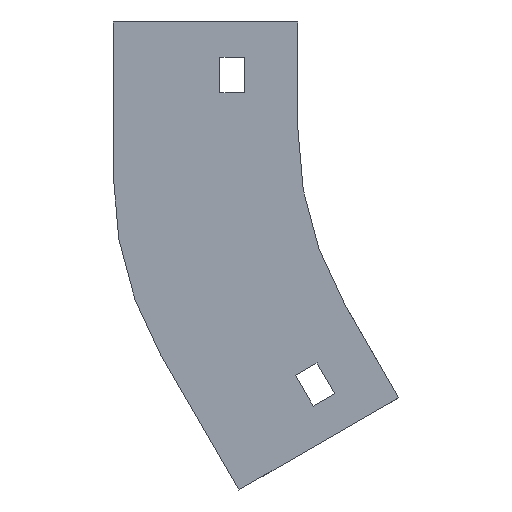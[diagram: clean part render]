
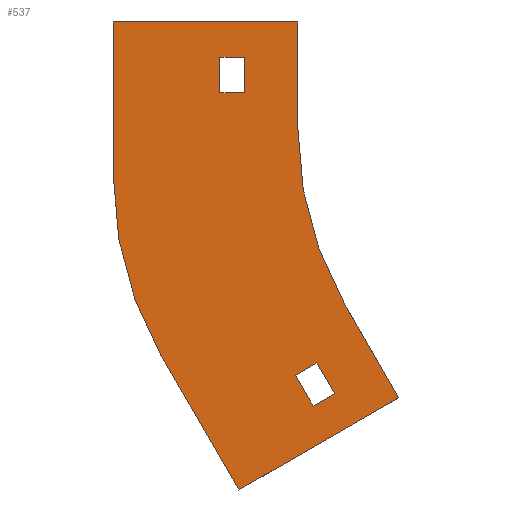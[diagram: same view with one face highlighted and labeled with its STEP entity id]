
A CAD part, left-side view. The second image highlights one B-rep face of the part: STEP entity #537.
In plain terms, the highlighted planar face has unit normal (-1, 0, 0).
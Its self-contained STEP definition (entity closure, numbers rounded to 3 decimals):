
#2 = DIRECTION ( 'NONE',  ( 0., 0., 1. ) ) ;
#16 = EDGE_CURVE ( 'NONE', #969, #68, #469, .T. ) ;
#18 = CARTESIAN_POINT ( 'NONE',  ( -202., 0.655, -99.66 ) ) ;
#35 = VERTEX_POINT ( 'NONE', #703 ) ;
#46 = LINE ( 'NONE', #909, #791 ) ;
#53 = EDGE_CURVE ( 'NONE', #1324, #176, #1214, .T. ) ;
#68 = VERTEX_POINT ( 'NONE', #692 ) ;
#80 = EDGE_CURVE ( 'NONE', #94, #1181, #1142, .T. ) ;
#94 = VERTEX_POINT ( 'NONE', #184 ) ;
#96 = CARTESIAN_POINT ( 'NONE',  ( -202., -5.407, -96.16 ) ) ;
#108 = ORIENTED_EDGE ( 'NONE', *, *, #763, .F. ) ;
#111 = LINE ( 'NONE', #968, #675 ) ;
#117 = FACE_OUTER_BOUND ( 'NONE', #1253, .T. ) ;
#121 = AXIS2_PLACEMENT_3D ( 'NONE', #262, #698, #1313 ) ;
#126 = CARTESIAN_POINT ( 'NONE',  ( -202., -13.397, -80. ) ) ;
#131 = ORIENTED_EDGE ( 'NONE', *, *, #227, .F. ) ;
#132 = EDGE_CURVE ( 'NONE', #1181, #286, #314, .T. ) ;
#138 = DIRECTION ( 'NONE',  ( 0., 0.866, -0.5 ) ) ;
#142 = VECTOR ( 'NONE', #1256, 1000. ) ;
#156 = EDGE_CURVE ( 'NONE', #176, #296, #194, .T. ) ;
#162 = VERTEX_POINT ( 'NONE', #96 ) ;
#164 = AXIS2_PLACEMENT_3D ( 'NONE', #457, #784, #885 ) ;
#176 = VERTEX_POINT ( 'NONE', #616 ) ;
#177 = ORIENTED_EDGE ( 'NONE', *, *, #53, .F. ) ;
#184 = CARTESIAN_POINT ( 'NONE',  ( -202., 15., -10. ) ) ;
#194 = LINE ( 'NONE', #1058, #1235 ) ;
#202 = VECTOR ( 'NONE', #401, 1000. ) ;
#205 = EDGE_LOOP ( 'NONE', ( #880, #1283, #1373, #793 ) ) ;
#227 = EDGE_CURVE ( 'NONE', #162, #969, #233, .T. ) ;
#233 = LINE ( 'NONE', #1305, #279 ) ;
#252 = VERTEX_POINT ( 'NONE', #126 ) ;
#262 = CARTESIAN_POINT ( 'NONE',  ( -202., -100., -30. ) ) ;
#276 = VECTOR ( 'NONE', #1290, 1000. ) ;
#279 = VECTOR ( 'NONE', #1201, 1000. ) ;
#286 = VERTEX_POINT ( 'NONE', #1307 ) ;
#296 = VERTEX_POINT ( 'NONE', #476 ) ;
#305 = EDGE_CURVE ( 'NONE', #35, #1061, #46, .T. ) ;
#314 = LINE ( 'NONE', #744, #202 ) ;
#348 = VECTOR ( 'NONE', #1006, 1000. ) ;
#384 = CARTESIAN_POINT ( 'NONE',  ( -202., 38.603, -93.933 ) ) ;
#399 = LINE ( 'NONE', #717, #348 ) ;
#401 = DIRECTION ( 'NONE',  ( 0., 1., 0. ) ) ;
#403 = LINE ( 'NONE', #832, #142 ) ;
#416 = VECTOR ( 'NONE', #1333, 1000. ) ;
#457 = CARTESIAN_POINT ( 'NONE',  ( -202., -48., -43.933 ) ) ;
#467 = LINE ( 'NONE', #1094, #533 ) ;
#469 = LINE ( 'NONE', #811, #416 ) ;
#470 = CARTESIAN_POINT ( 'NONE',  ( -202., -10.407, -104.821 ) ) ;
#472 = CARTESIAN_POINT ( 'NONE',  ( -202., 22., -10. ) ) ;
#476 = CARTESIAN_POINT ( 'NONE',  ( -202., 0., 0. ) ) ;
#478 = ORIENTED_EDGE ( 'NONE', *, *, #1356, .F. ) ;
#492 = AXIS2_PLACEMENT_3D ( 'NONE', #975, #555, #1092 ) ;
#497 = EDGE_CURVE ( 'NONE', #252, #866, #882, .T. ) ;
#516 = EDGE_CURVE ( 'NONE', #286, #599, #111, .T. ) ;
#523 = ORIENTED_EDGE ( 'NONE', *, *, #305, .F. ) ;
#524 = CARTESIAN_POINT ( 'NONE',  ( -202., 0., -30. ) ) ;
#533 = VECTOR ( 'NONE', #767, 1000. ) ;
#537 = ADVANCED_FACE ( 'NONE', ( #868, #117, #1297 ), #669, .T. ) ;
#555 = DIRECTION ( 'NONE',  ( -1., 0., 0. ) ) ;
#557 = ORIENTED_EDGE ( 'NONE', *, *, #156, .F. ) ;
#592 = ORIENTED_EDGE ( 'NONE', *, *, #1022, .F. ) ;
#599 = VERTEX_POINT ( 'NONE', #472 ) ;
#608 = EDGE_LOOP ( 'NONE', ( #592, #108, #747, #131 ) ) ;
#616 = CARTESIAN_POINT ( 'NONE',  ( -202., 52., 0. ) ) ;
#626 = VECTOR ( 'NONE', #138, 1000. ) ;
#665 = LINE ( 'NONE', #1212, #626 ) ;
#669 = PLANE ( 'NONE',  #492 ) ;
#675 = VECTOR ( 'NONE', #2, 1000. ) ;
#686 = CARTESIAN_POINT ( 'NONE',  ( -202., 52., -43.933 ) ) ;
#692 = CARTESIAN_POINT ( 'NONE',  ( -202., -4.345, -108.321 ) ) ;
#695 = LINE ( 'NONE', #1122, #1090 ) ;
#698 = DIRECTION ( 'NONE',  ( -1., 0., 0. ) ) ;
#703 = CARTESIAN_POINT ( 'NONE',  ( -202., 16.636, -131.981 ) ) ;
#710 = CIRCLE ( 'NONE', #121, 100. ) ;
#717 = CARTESIAN_POINT ( 'NONE',  ( -202., 22., -10. ) ) ;
#742 = VERTEX_POINT ( 'NONE', #524 ) ;
#744 = CARTESIAN_POINT ( 'NONE',  ( -202., 22., -20. ) ) ;
#747 = ORIENTED_EDGE ( 'NONE', *, *, #16, .F. ) ;
#763 = EDGE_CURVE ( 'NONE', #68, #1367, #403, .T. ) ;
#767 = DIRECTION ( 'NONE',  ( 0., 0.5, 0.866 ) ) ;
#784 = DIRECTION ( 'NONE',  ( 1., 0., 0. ) ) ;
#791 = VECTOR ( 'NONE', #1154, 1000. ) ;
#793 = ORIENTED_EDGE ( 'NONE', *, *, #516, .T. ) ;
#811 = CARTESIAN_POINT ( 'NONE',  ( -202., -4.345, -108.321 ) ) ;
#822 = DIRECTION ( 'NONE',  ( 0., -1., 0. ) ) ;
#832 = CARTESIAN_POINT ( 'NONE',  ( -202., -4.345, -108.321 ) ) ;
#862 = ORIENTED_EDGE ( 'NONE', *, *, #1041, .F. ) ;
#866 = VERTEX_POINT ( 'NONE', #1178 ) ;
#868 = FACE_BOUND ( 'NONE', #205, .T. ) ;
#880 = ORIENTED_EDGE ( 'NONE', *, *, #1175, .T. ) ;
#882 = LINE ( 'NONE', #1084, #276 ) ;
#885 = DIRECTION ( 'NONE',  ( 0., 0., -1. ) ) ;
#909 = CARTESIAN_POINT ( 'NONE',  ( -202., 16.636, -131.981 ) ) ;
#930 = ORIENTED_EDGE ( 'NONE', *, *, #1319, .F. ) ;
#935 = CARTESIAN_POINT ( 'NONE',  ( -202., 15., -20. ) ) ;
#938 = ORIENTED_EDGE ( 'NONE', *, *, #1083, .F. ) ;
#947 = DIRECTION ( 'NONE',  ( 0., 0., -1. ) ) ;
#968 = CARTESIAN_POINT ( 'NONE',  ( -202., 22., -10. ) ) ;
#969 = VERTEX_POINT ( 'NONE', #18 ) ;
#975 = CARTESIAN_POINT ( 'NONE',  ( -202., -100., -30. ) ) ;
#1006 = DIRECTION ( 'NONE',  ( 0., -1., 0. ) ) ;
#1011 = CARTESIAN_POINT ( 'NONE',  ( -202., 52., -43.933 ) ) ;
#1013 = DIRECTION ( 'NONE',  ( 0., 0., -1. ) ) ;
#1022 = EDGE_CURVE ( 'NONE', #1367, #162, #467, .T. ) ;
#1041 = EDGE_CURVE ( 'NONE', #866, #35, #665, .T. ) ;
#1058 = CARTESIAN_POINT ( 'NONE',  ( -202., 52., 0. ) ) ;
#1061 = VERTEX_POINT ( 'NONE', #384 ) ;
#1083 = EDGE_CURVE ( 'NONE', #296, #742, #695, .T. ) ;
#1084 = CARTESIAN_POINT ( 'NONE',  ( -202., -13.397, -80. ) ) ;
#1090 = VECTOR ( 'NONE', #1013, 1000. ) ;
#1092 = DIRECTION ( 'NONE',  ( 0., 0., 1. ) ) ;
#1094 = CARTESIAN_POINT ( 'NONE',  ( -202., -10.407, -104.821 ) ) ;
#1108 = DIRECTION ( 'NONE',  ( 0., 0., 1. ) ) ;
#1122 = CARTESIAN_POINT ( 'NONE',  ( -202., 0., 0. ) ) ;
#1125 = VECTOR ( 'NONE', #947, 1000. ) ;
#1140 = ORIENTED_EDGE ( 'NONE', *, *, #497, .F. ) ;
#1142 = LINE ( 'NONE', #1248, #1125 ) ;
#1154 = DIRECTION ( 'NONE',  ( 0., 0.5, 0.866 ) ) ;
#1175 = EDGE_CURVE ( 'NONE', #599, #94, #399, .T. ) ;
#1178 = CARTESIAN_POINT ( 'NONE',  ( -202., -28.397, -105.981 ) ) ;
#1181 = VERTEX_POINT ( 'NONE', #935 ) ;
#1194 = VECTOR ( 'NONE', #1108, 1000. ) ;
#1201 = DIRECTION ( 'NONE',  ( 0., 0.866, -0.5 ) ) ;
#1212 = CARTESIAN_POINT ( 'NONE',  ( -202., -28.397, -105.981 ) ) ;
#1214 = LINE ( 'NONE', #686, #1194 ) ;
#1235 = VECTOR ( 'NONE', #822, 1000. ) ;
#1248 = CARTESIAN_POINT ( 'NONE',  ( -202., 15., -10. ) ) ;
#1253 = EDGE_LOOP ( 'NONE', ( #557, #177, #478, #523, #862, #1140, #930, #938 ) ) ;
#1256 = DIRECTION ( 'NONE',  ( 0., -0.866, 0.5 ) ) ;
#1283 = ORIENTED_EDGE ( 'NONE', *, *, #80, .T. ) ;
#1290 = DIRECTION ( 'NONE',  ( 0., -0.5, -0.866 ) ) ;
#1297 = FACE_BOUND ( 'NONE', #608, .T. ) ;
#1305 = CARTESIAN_POINT ( 'NONE',  ( -202., 0.655, -99.66 ) ) ;
#1307 = CARTESIAN_POINT ( 'NONE',  ( -202., 22., -20. ) ) ;
#1313 = DIRECTION ( 'NONE',  ( 0., 0., 1. ) ) ;
#1319 = EDGE_CURVE ( 'NONE', #742, #252, #710, .T. ) ;
#1324 = VERTEX_POINT ( 'NONE', #1011 ) ;
#1333 = DIRECTION ( 'NONE',  ( 0., -0.5, -0.866 ) ) ;
#1356 = EDGE_CURVE ( 'NONE', #1061, #1324, #1395, .T. ) ;
#1367 = VERTEX_POINT ( 'NONE', #470 ) ;
#1373 = ORIENTED_EDGE ( 'NONE', *, *, #132, .T. ) ;
#1395 = CIRCLE ( 'NONE', #164, 100. ) ;
